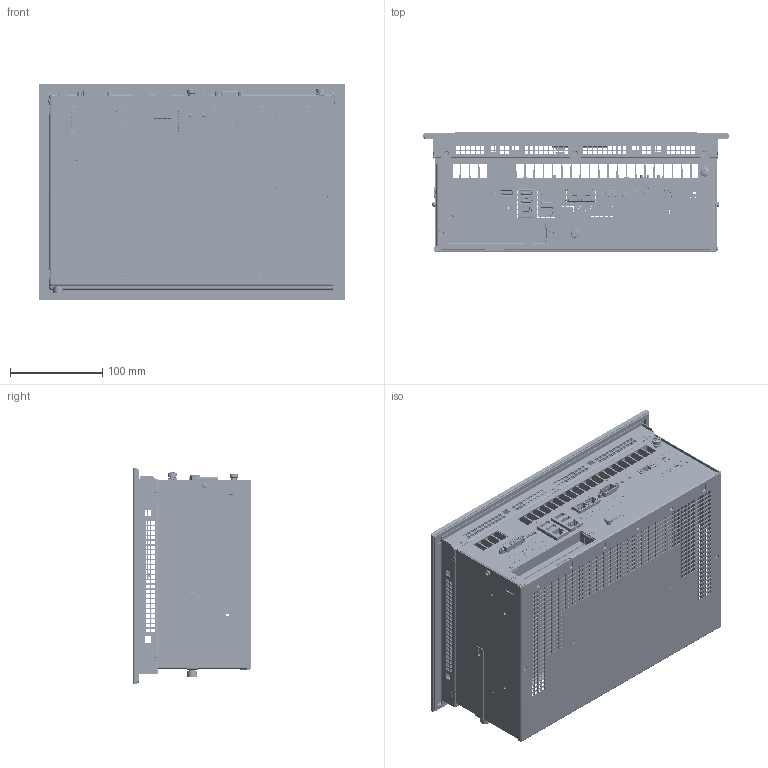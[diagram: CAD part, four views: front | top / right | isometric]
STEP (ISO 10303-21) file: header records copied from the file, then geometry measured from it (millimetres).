
FILE_DESCRIPTION (( 'STEP AP214' ), '1' );
FILE_NAME ('C6P34-Panel_121W_Cap_S1.STEP', '2019-09-24T08:53:04', ( '' ), ( '' ), 'SwSTEP 2.0', 'SolidWorks 2018', '' );
FILE_SCHEMA (( 'AUTOMOTIVE_DESIGN' ));
Length unit declared in the file: millimetre
Products named in the file (172): 21509026; 58502117; D02201705_S1; 57902481; 66320016; 56600301^56600300(2)_56600300; piazzuola_de800_di370; 21409042; 51524089; 69111028; 57936013; 21410052; 21502089; perni_filettati.prt; 65720030; 69111027; 14300025; 52912002; 21410056; 21405029; 66320015; 55455110^56600301_56600300(2)_56600300; 23330039; 62920012; C6P34-Panel_121W_Cap_S1; 55202070; 7359_056; 3802x-x05n-01x^55600007_56600300(2)_56600300; 21614000; D02201701; 59702227_Default<A macchina>; 57902482; 21404036; 69112004; 66320001; 21410046; 56600300; 57936014; 21410015; 62920009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
Assembly tree (124 placements, depth 6):
  58502117
  66320016
  piazzuola_de800_di370
  51524089
  69111028
Bounding box: 331 x 128.7 x 234 mm (x, y, z)
Volume: 1107590.2 mm3; surface area: 1478453 mm2
Topology: 225 solids, 243 shells, 27174 faces, 76436 edges, 50109 vertices
Faces by surface type: plane 21374, cylinder 4541, bspline 602, cone 568, torus 79, sphere 10
Full cylindrical faces by diameter (mm): 0.3 x9, 0.434 x1, 0.6 x30, 0.65 x6, 0.7 x165, 0.8 x36, 0.85 x66, 0.9 x175, 0.95 x11, 1 x119, 1.1 x3, 1.2 x10, 1.32 x2, 1.35 x4, 1.4 x8, 1.5 x6, 1.6 x7, 1.7 x4, 1.8 x3, 1.9 x4, 1.95 x4, 2 x1, 2.05 x1, 2.3 x18, 2.4 x9, 2.5 x41, 2.6 x5, 2.8 x3, 2.874 x1, 3 x71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
Entity records: 813339 total; most frequent: CARTESIAN_POINT 167557, ORIENTED_EDGE 133042, DIRECTION 118150, EDGE_CURVE 66911, VECTOR 56986, LINE 56986, VERTEX_POINT 44606, EDGE_LOOP 31060
